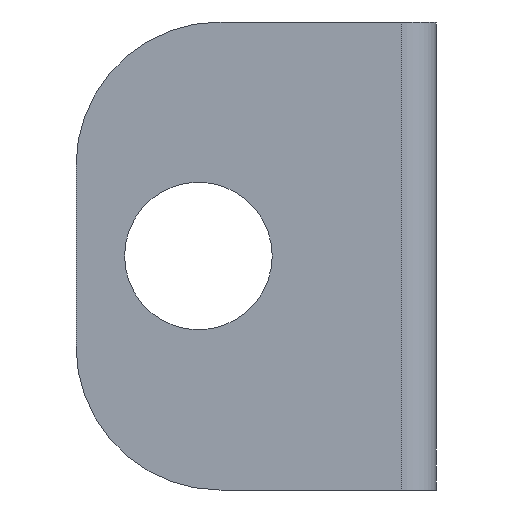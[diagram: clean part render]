
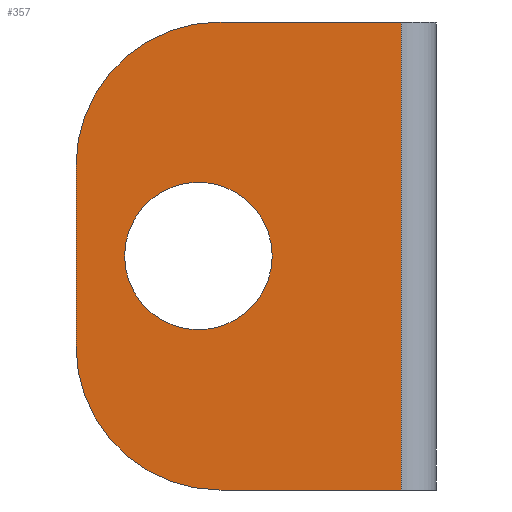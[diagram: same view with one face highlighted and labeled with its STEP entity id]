
A CAD part, left-side view. The second image highlights one B-rep face of the part: STEP entity #357.
In plain terms, the highlighted planar face has unit normal (-1, 0, 0).
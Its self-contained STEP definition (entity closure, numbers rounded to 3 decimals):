
#9 = VERTEX_POINT ( 'NONE', #678 ) ;
#11 = VERTEX_POINT ( 'NONE', #680 ) ;
#49 = LINE ( 'NONE', #783, #51 ) ;
#51 = VECTOR ( 'NONE', #793, 1000. ) ;
#69 = CIRCLE ( 'NONE', #633, 20. ) ;
#75 = LINE ( 'NONE', #895, #78 ) ;
#78 = VECTOR ( 'NONE', #790, 1000. ) ;
#119 = LINE ( 'NONE', #930, #124 ) ;
#124 = VECTOR ( 'NONE', #911, 1000. ) ;
#143 = LINE ( 'NONE', #745, #147 ) ;
#147 = VECTOR ( 'NONE', #867, 1000. ) ;
#159 = CIRCLE ( 'NONE', #621, 10.25 ) ;
#172 = CIRCLE ( 'NONE', #591, 20. ) ;
#175 = CIRCLE ( 'NONE', #659, 10.25 ) ;
#199 = FACE_BOUND ( 'NONE', #279, .T. ) ;
#207 = FACE_OUTER_BOUND ( 'NONE', #278, .T. ) ;
#254 = ORIENTED_EDGE ( 'NONE', *, *, #563, .T. ) ;
#273 = ORIENTED_EDGE ( 'NONE', *, *, #611, .T. ) ;
#274 = ORIENTED_EDGE ( 'NONE', *, *, #575, .T. ) ;
#278 = EDGE_LOOP ( 'NONE', ( #273, #254, #455, #459, #442, #440 ) ) ;
#279 = EDGE_LOOP ( 'NONE', ( #1113, #274 ) ) ;
#357 = ADVANCED_FACE ( 'NONE', ( #199, #207 ), #774, .F. ) ;
#440 = ORIENTED_EDGE ( 'NONE', *, *, #603, .T. ) ;
#442 = ORIENTED_EDGE ( 'NONE', *, *, #586, .F. ) ;
#455 = ORIENTED_EDGE ( 'NONE', *, *, #536, .T. ) ;
#459 = ORIENTED_EDGE ( 'NONE', *, *, #512, .F. ) ;
#512 = EDGE_CURVE ( 'NONE', #1172, #11, #119, .T. ) ;
#536 = EDGE_CURVE ( 'NONE', #1185, #11, #143, .T. ) ;
#544 = AXIS2_PLACEMENT_3D ( 'NONE', #778, #765, #763 ) ;
#554 = EDGE_CURVE ( 'NONE', #1182, #1177, #159, .T. ) ;
#563 = EDGE_CURVE ( 'NONE', #1181, #1185, #172, .T. ) ;
#575 = EDGE_CURVE ( 'NONE', #1177, #1182, #175, .T. ) ;
#586 = EDGE_CURVE ( 'NONE', #9, #1172, #49, .T. ) ;
#591 = AXIS2_PLACEMENT_3D ( 'NONE', #840, #838, #839 ) ;
#603 = EDGE_CURVE ( 'NONE', #9, #1190, #69, .T. ) ;
#611 = EDGE_CURVE ( 'NONE', #1190, #1181, #75, .T. ) ;
#621 = AXIS2_PLACEMENT_3D ( 'NONE', #922, #916, #910 ) ;
#633 = AXIS2_PLACEMENT_3D ( 'NONE', #999, #897, #1107 ) ;
#659 = AXIS2_PLACEMENT_3D ( 'NONE', #855, #935, #836 ) ;
#678 = CARTESIAN_POINT ( 'NONE',  ( 0., 30., 32.5 ) ) ;
#680 = CARTESIAN_POINT ( 'NONE',  ( 0., 4.85, -32.5 ) ) ;
#710 = CARTESIAN_POINT ( 'NONE',  ( 0., 43.25, 0. ) ) ;
#714 = CARTESIAN_POINT ( 'NONE',  ( 0., 50., 12.5 ) ) ;
#727 = CARTESIAN_POINT ( 'NONE',  ( 0., 30., -32.5 ) ) ;
#729 = CARTESIAN_POINT ( 'NONE',  ( 0., 4.85, 32.5 ) ) ;
#745 = CARTESIAN_POINT ( 'NONE',  ( 0., 50., -32.5 ) ) ;
#763 = DIRECTION ( 'NONE',  ( 0., 1., 0. ) ) ;
#765 = DIRECTION ( 'NONE',  ( 1., 0., 0. ) ) ;
#774 = PLANE ( 'NONE',  #544 ) ;
#778 = CARTESIAN_POINT ( 'NONE',  ( 0., 50., 32.5 ) ) ;
#783 = CARTESIAN_POINT ( 'NONE',  ( 0., 50., 32.5 ) ) ;
#790 = DIRECTION ( 'NONE',  ( 0., 0., -1. ) ) ;
#793 = DIRECTION ( 'NONE',  ( 0., -1., 0. ) ) ;
#836 = DIRECTION ( 'NONE',  ( 0., 1., 0. ) ) ;
#838 = DIRECTION ( 'NONE',  ( -1., 0., 0. ) ) ;
#839 = DIRECTION ( 'NONE',  ( 0., 1., 0. ) ) ;
#840 = CARTESIAN_POINT ( 'NONE',  ( 0., 30., -12.5 ) ) ;
#855 = CARTESIAN_POINT ( 'NONE',  ( 0., 33., 0. ) ) ;
#867 = DIRECTION ( 'NONE',  ( 0., -1., 0. ) ) ;
#895 = CARTESIAN_POINT ( 'NONE',  ( 0., 50., 32.5 ) ) ;
#897 = DIRECTION ( 'NONE',  ( -1., 0., 0. ) ) ;
#910 = DIRECTION ( 'NONE',  ( 0., 1., 0. ) ) ;
#911 = DIRECTION ( 'NONE',  ( 0., 0., -1. ) ) ;
#916 = DIRECTION ( 'NONE',  ( 1., 0., 0. ) ) ;
#922 = CARTESIAN_POINT ( 'NONE',  ( 0., 33., 0. ) ) ;
#930 = CARTESIAN_POINT ( 'NONE',  ( 0., 4.85, 32.5 ) ) ;
#935 = DIRECTION ( 'NONE',  ( 1., 0., 0. ) ) ;
#995 = CARTESIAN_POINT ( 'NONE',  ( 0., 50., -12.5 ) ) ;
#999 = CARTESIAN_POINT ( 'NONE',  ( 0., 30., 12.5 ) ) ;
#1026 = CARTESIAN_POINT ( 'NONE',  ( 0., 22.75, 0. ) ) ;
#1107 = DIRECTION ( 'NONE',  ( 0., 1., 0. ) ) ;
#1113 = ORIENTED_EDGE ( 'NONE', *, *, #554, .T. ) ;
#1172 = VERTEX_POINT ( 'NONE', #729 ) ;
#1177 = VERTEX_POINT ( 'NONE', #1026 ) ;
#1181 = VERTEX_POINT ( 'NONE', #995 ) ;
#1182 = VERTEX_POINT ( 'NONE', #710 ) ;
#1185 = VERTEX_POINT ( 'NONE', #727 ) ;
#1190 = VERTEX_POINT ( 'NONE', #714 ) ;
